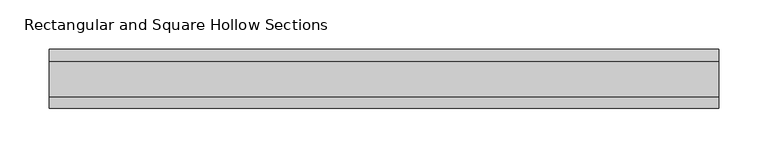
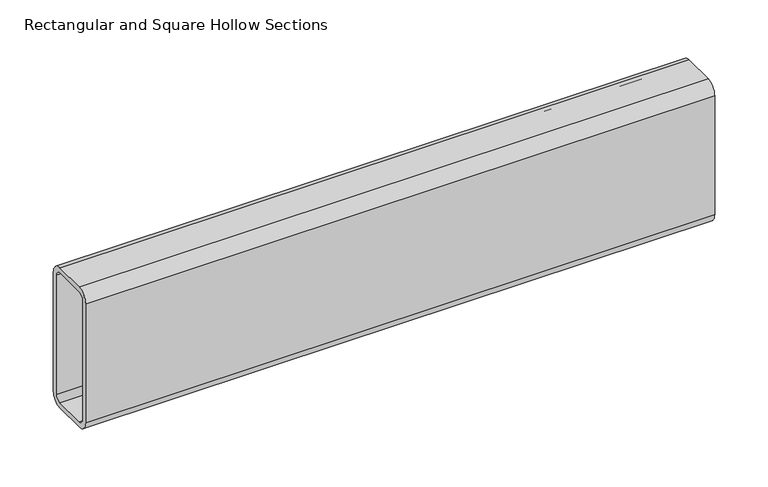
"""IFC4 building model written with IfcOpenShell, lengths in millimetres: beam geometry, Rectangular and Square Hollow Sections : TREC160x60x6."""

from ifc_helpers import new_model, si_unit, point, frame, frame_2d, origin, place, context, project, spatial, polyline, circle_curve, trimmed, segment, composite_curve, outline, extrude, source, transform, mapped, element, save


def rectangular_and_square_hollow_sections_8ad52992(model_context):
    return source(origin(), model_context, "Body", "SweptSolid", [
        extrude(outline(composite_curve([segment(polyline([(30.0, 68.0), (30.0, -68.0)]), True, "CONTINUOUS"), segment(trimmed(circle_curve(frame_2d((18.0, -68.0)), 12.0), [point((30.0, -68.0))], [point((18.0, -80.0))], False, "CARTESIAN"), True, "CONTINUOUS"), segment(polyline([(18.0, -80.0), (-18.0, -80.0)]), True, "CONTINUOUS"), segment(trimmed(circle_curve(frame_2d((-18.0, -68.0)), 12.0), [point((-18.0, -80.0))], [point((-30.0, -68.0))], False, "CARTESIAN"), True, "CONTINUOUS"), segment(polyline([(-30.0, -68.0), (-30.0, 68.0)]), True, "CONTINUOUS"), segment(trimmed(circle_curve(frame_2d((-18.0, 68.0)), 12.0), [point((-30.0, 68.0))], [point((-18.0, 80.0))], False, "CARTESIAN"), True, "CONTINUOUS"), segment(polyline([(-18.0, 80.0), (18.0, 80.0)]), True, "CONTINUOUS"), segment(trimmed(circle_curve(frame_2d((18.0, 68.0)), 12.0), [point((18.0, 80.0))], [point((30.0, 68.0))], False, "CARTESIAN"), True, "CONTINUOUS")], self_intersect=False), holes=[composite_curve([segment(trimmed(circle_curve(frame_2d((-18.0, 68.0)), 6.0), [point((-18.0, 74.0))], [point((-24.0, 68.0))], True, "CARTESIAN"), True, "CONTINUOUS"), segment(polyline([(-24.0, 68.0), (-24.0, -68.0)]), True, "CONTINUOUS"), segment(trimmed(circle_curve(frame_2d((-18.0, -68.0)), 6.0), [point((-24.0, -68.0))], [point((-18.0, -74.0))], True, "CARTESIAN"), True, "CONTINUOUS"), segment(polyline([(-18.0, -74.0), (18.0, -74.0)]), True, "CONTINUOUS"), segment(trimmed(circle_curve(frame_2d((18.0, -68.0)), 6.0), [point((18.0, -74.0))], [point((24.0, -68.0))], True, "CARTESIAN"), True, "CONTINUOUS"), segment(polyline([(24.0, -68.0), (24.0, 68.0)]), True, "CONTINUOUS"), segment(trimmed(circle_curve(frame_2d((18.0, 68.0)), 6.0), [point((24.0, 68.0))], [point((18.0, 74.0))], True, "CARTESIAN"), True, "CONTINUOUS"), segment(polyline([(18.0, 74.0), (-18.0, 74.0)]), True, "CONTINUOUS")], self_intersect=False)]), frame((-469.6873541, 0.0, 0.0), z_axis=(1.0, 0.0, 0.0), x_axis=(0.0, 1.0, 0.0)), (0.0, 0.0, 1.0), 679.1873541),
    ])


if __name__ == "__main__":
    model = new_model("IFC4")
    model_context = context("Model", 3, world=origin())
    ifc_project = project(units=[si_unit("LENGTHUNIT", "METRE", prefix="MILLI")], contexts=[model_context])
    site = spatial("IfcSite", under=ifc_project)
    building = spatial("IfcBuilding", under=site)
    placement = place(None, origin())
    rectangular_and_square_hollow_sections_shape = rectangular_and_square_hollow_sections_8ad52992(model_context)
    element("IfcBeam", 1, ObjectType="Rectangular and Square Hollow Sections : TREC160x60x6", at=placement, inside=building, context=model_context, shape_type="MappedRepresentation", body=[
        mapped(rectangular_and_square_hollow_sections_shape, transform((0.0, 0.0, 0.0), x_axis=(1.0, 0.0, 0.0), y_axis=(0.0, 1.0, 0.0), z_axis=(0.0, 0.0, 1.0))),
    ])
    save(model, "model.ifc")
